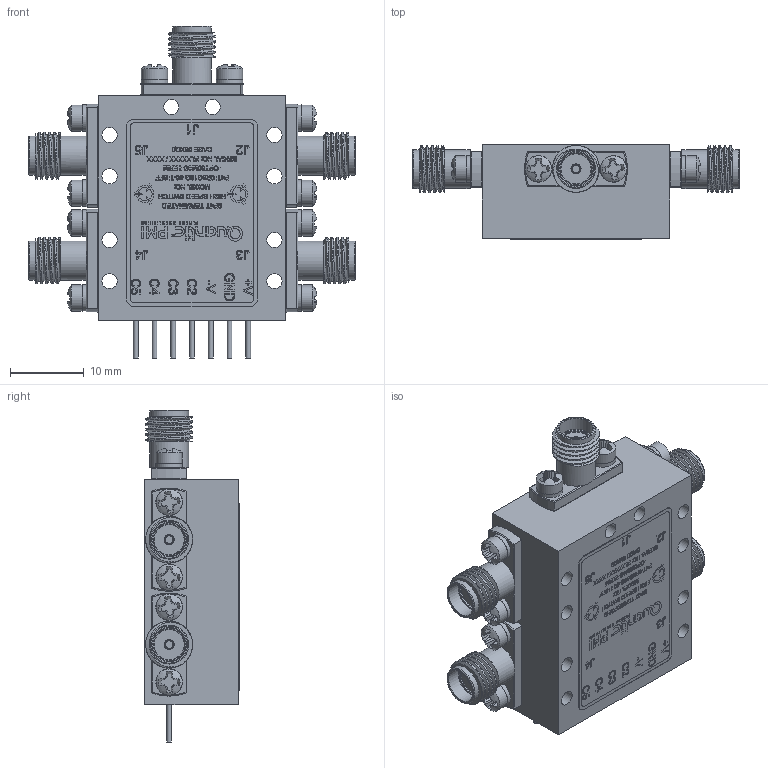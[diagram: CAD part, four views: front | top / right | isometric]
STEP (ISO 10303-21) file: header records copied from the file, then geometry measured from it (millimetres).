
FILE_DESCRIPTION (( 'STEP AP214' ), '1' );
FILE_NAME ('P4T-0R5G18G-50-T-SFF-OPT50M4G-TERM.STEP', '2026-04-13T15:07:25', ( '' ), ( '' ), 'SwSTEP 2.0', 'SolidWorks 2025', '' );
FILE_SCHEMA (( 'AUTOMOTIVE_DESIGN' ));
Length unit declared in the file: inch
Products named in the file (1): P4T-0R5G18G-50-T-SFF-OPT50M4G-TERM
Bounding box: 44.3 x 12.8 x 45.01 mm (x, y, z)
Surface area: 6582.1 mm2 (no closed solid volume)
Topology: 0 solids, 41 shells, 691 faces, 3209 edges, 2776 vertices
Faces by surface type: plane 476, cylinder 101, torus 54, cone 40, bspline 10, sphere 10
Full cylindrical faces by diameter (mm): 0.635 x7, 1.016 x5, 2.057 x10, 3.556 x10, 4.191 x5, 4.597 x5, 5.283 x10
Entity records: 53591 total; most frequent: CARTESIAN_POINT 19640, ORIENTED_EDGE 6029, DIRECTION 4087, EDGE_CURVE 3108, VERTEX_POINT 2761, VECTOR 1689, LINE 1689, AXIS2_PLACEMENT_3D 1199
